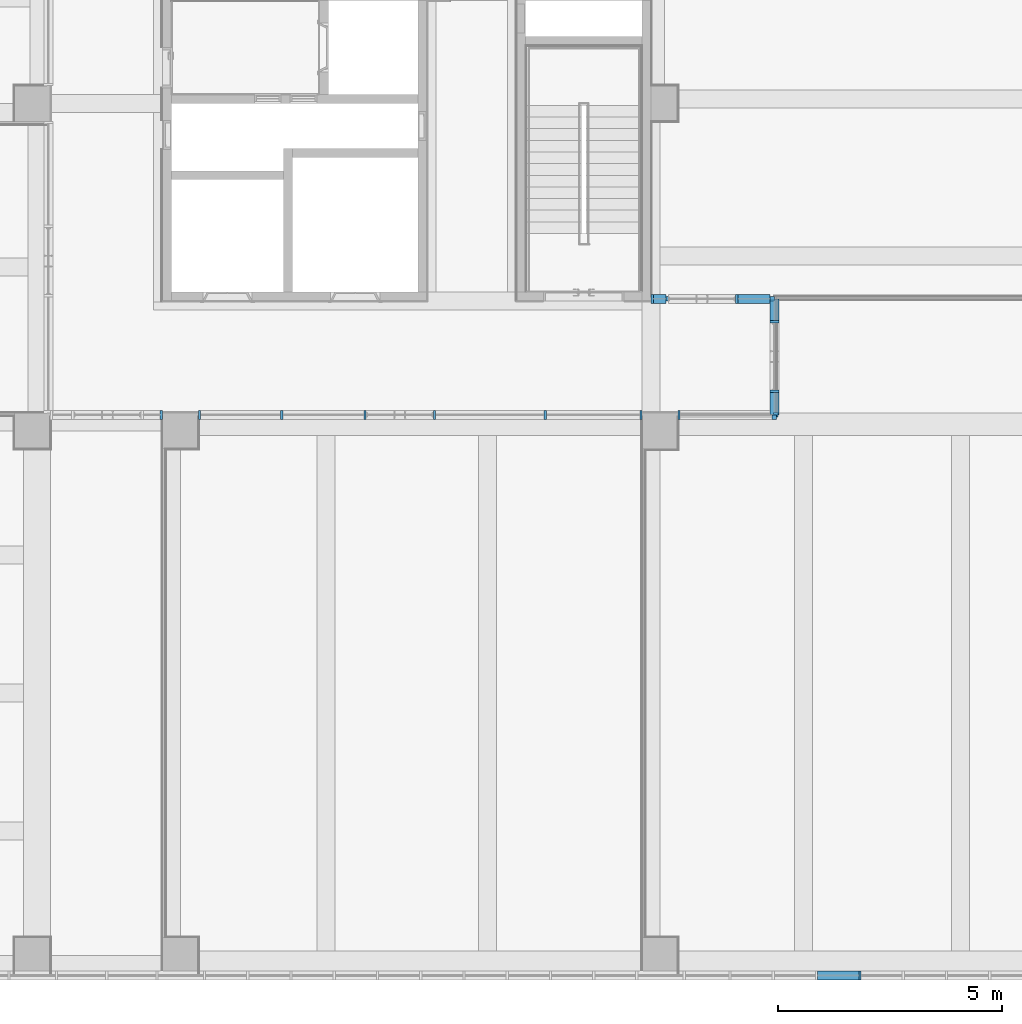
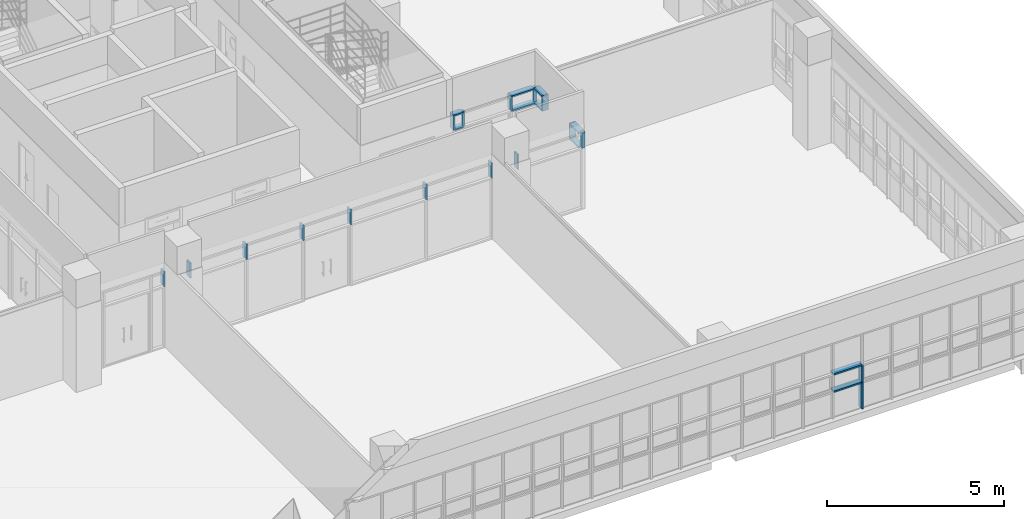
# One storey, part 15 of 81: 28 members, 6 elements without a shape of their own.
"""IFC2X3 building model written with IfcOpenShell, lengths in millimetres."""

from ifc_helpers import new_model, entity, si_unit, converted_unit, derived_unit, direction, frame, origin, origin_2d_with_axis, place, context, subcontext, project, spatial, rectangle, extrude, source, transform, mapped, material, type_object, type_shapes, element, aggregate, save


model = new_model("IFC2X3")

# Units and contexts
model_context = context("Model", 3, precision=0.01, world=origin(), true_north=direction((6.123031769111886e-17, 1.0)))
body_context = subcontext(model_context, "Body", "Model", "MODEL_VIEW")
ifc_project = project(units=[si_unit("LENGTHUNIT", "METRE", prefix="MILLI"), si_unit("AREAUNIT", "SQUARE_METRE"), si_unit("VOLUMEUNIT", "CUBIC_METRE"), converted_unit("PLANEANGLEUNIT", "DEGREE", entity("IfcRatioMeasure", 0.017453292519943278), si_unit("PLANEANGLEUNIT", "RADIAN"), dimensions=[0, 0, 0, 0, 0, 0, 0]), si_unit("MASSUNIT", "GRAM", prefix="KILO"), derived_unit("MASSDENSITYUNIT", [(si_unit("MASSUNIT", "GRAM", prefix="KILO"), 1), (si_unit("LENGTHUNIT", "METRE"), -3)]), derived_unit("MOMENTOFINERTIAUNIT", [(si_unit("LENGTHUNIT", "METRE"), 4)]), si_unit("TIMEUNIT", "SECOND"), si_unit("FREQUENCYUNIT", "HERTZ"), si_unit("THERMODYNAMICTEMPERATUREUNIT", "DEGREE_CELSIUS"), derived_unit("THERMALTRANSMITTANCEUNIT", [(si_unit("MASSUNIT", "GRAM", prefix="KILO"), 1), (si_unit("THERMODYNAMICTEMPERATUREUNIT", "KELVIN"), -1), (si_unit("TIMEUNIT", "SECOND"), -3)]), derived_unit("VOLUMETRICFLOWRATEUNIT", [(si_unit("LENGTHUNIT", "METRE"), 3), (si_unit("TIMEUNIT", "SECOND"), -1)]), derived_unit("MASSFLOWRATEUNIT", [(si_unit("MASSUNIT", "GRAM", prefix="KILO"), 1), (si_unit("TIMEUNIT", "SECOND"), -1)]), derived_unit("ROTATIONALFREQUENCYUNIT", [(si_unit("TIMEUNIT", "SECOND"), -1)]), si_unit("ELECTRICCURRENTUNIT", "AMPERE"), si_unit("ELECTRICVOLTAGEUNIT", "VOLT"), si_unit("POWERUNIT", "WATT"), si_unit("FORCEUNIT", "NEWTON", prefix="KILO"), si_unit("ILLUMINANCEUNIT", "LUX"), si_unit("LUMINOUSFLUXUNIT", "LUMEN"), si_unit("LUMINOUSINTENSITYUNIT", "CANDELA"), derived_unit("USERDEFINED", [(si_unit("MASSUNIT", "GRAM", prefix="KILO"), -1), (si_unit("LENGTHUNIT", "METRE"), -2), (si_unit("TIMEUNIT", "SECOND"), 3), (si_unit("LUMINOUSFLUXUNIT", "LUMEN"), 1)]), derived_unit("SOUNDPOWERUNIT", [(si_unit("MASSUNIT", "GRAM", prefix="KILO"), 1), (si_unit("LENGTHUNIT", "METRE"), 2), (si_unit("TIMEUNIT", "SECOND"), -3)]), derived_unit("SOUNDPRESSUREUNIT", [(si_unit("MASSUNIT", "GRAM", prefix="KILO"), 1), (si_unit("LENGTHUNIT", "METRE"), -1), (si_unit("TIMEUNIT", "SECOND"), -2)]), derived_unit("LINEARVELOCITYUNIT", [(si_unit("LENGTHUNIT", "METRE"), 1), (si_unit("TIMEUNIT", "SECOND"), -1)]), si_unit("PRESSUREUNIT", "PASCAL"), derived_unit("USERDEFINED", [(si_unit("LENGTHUNIT", "METRE"), -2), (si_unit("MASSUNIT", "GRAM", prefix="KILO"), 1), (si_unit("TIMEUNIT", "SECOND"), -2)]), derived_unit("LINEARFORCEUNIT", [(si_unit("MASSUNIT", "GRAM", prefix="KILO"), 1), (si_unit("LENGTHUNIT", "METRE"), 1), (si_unit("TIMEUNIT", "SECOND"), -2), (si_unit("LENGTHUNIT", "METRE"), -1)]), derived_unit("PLANARFORCEUNIT", [(si_unit("MASSUNIT", "GRAM", prefix="KILO"), 1), (si_unit("LENGTHUNIT", "METRE"), 1), (si_unit("TIMEUNIT", "SECOND"), -2), (si_unit("LENGTHUNIT", "METRE"), -2)])], contexts=[model_context])

# Site, building, storey
site_placement = place(None, frame((-14167.972527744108, -657.2125860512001, 0.0)))
site = spatial("IfcSite", under=ifc_project, at=site_placement, Name="Default", CompositionType="ELEMENT")
building_placement = place(site_placement, origin())
building = spatial("IfcBuilding", under=site, at=building_placement, Name="Sample Building", CompositionType="ELEMENT")
storey_placement = place(building_placement, frame((0.0, 0.0, 13400.0)))
storey = spatial("IfcBuildingStorey", under=building, at=storey_placement, Name="지상 4층", CompositionType="ELEMENT", Elevation=13400.00000000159)

# Curtain wall, member
curtain_wall_type = type_object("IfcCurtainWallType", Name="커튼월:CW112-스테인리스 스틸 커튼월", PredefinedType="NOTDEFINED")
curtain_wall_1_placement = place(storey_placement, frame((0.0, 0.0, -13400.0)))
curtain_wall_1 = element("IfcCurtainWall", 1, at=curtain_wall_1_placement, inside=storey, type_object=curtain_wall_type, Name="커튼월:CW112-스테인리스 스틸 커튼월", ObjectType="커튼월:CW112-스테인리스 스틸 커튼월")
ifc_material = material(Name="<Unnamed>")
member_type_1 = type_object("IfcMemberType", Name="직사각형 멀리언:CW200-직사각형 멀리언 50x200mm", PredefinedType="MULLION", material=ifc_material)
shared_shape_1 = source(origin(), body_context, "Body", "SweptSolid", [
    extrude(rectangle(XDim=200.0, YDim=50.0, at=origin_2d_with_axis()), frame((0.0, 0.0, -600.0), z_axis=(0.0, 0.0, 1.0), x_axis=(0.0, -1.0, 0.0)), (0.0, 0.0, 1.0), 600.0),
])
type_shapes(member_type_1, [shared_shape_1])
member_1_placement = place(curtain_wall_1_placement, frame((45625.156070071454, 507.21229514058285, 14400.0), z_axis=(0.0, 0.0, -1.0), x_axis=(1.0, 0.0, 0.0)))
member_1 = element("IfcMember", 2, at=member_1_placement, type_object=member_type_1, material=ifc_material, Name="직사각형 멀리언:CW200-직사각형 멀리언 50x200mm", ObjectType="직사각형 멀리언:CW200-직사각형 멀리언 50x200mm", context=body_context, shape_type="MappedRepresentation", body=[
    mapped(shared_shape_1, transform((0.0, 0.0, 0.0), scale=1.0)),
])

curtain_wall_2_placement = place(storey_placement, frame((0.0, 0.0, -13400.0)))
curtain_wall_2 = element("IfcCurtainWall", 3, at=curtain_wall_2_placement, inside=storey, type_object=curtain_wall_type, Name="커튼월:CW112-스테인리스 스틸 커튼월", ObjectType="커튼월:CW112-스테인리스 스틸 커튼월")
member_type_2 = type_object("IfcMemberType", Name="직사각형 멀리언:CW200-직사각형 멀리언 50x200mm", PredefinedType="MULLION", material=ifc_material)
shared_shape_2 = source(origin(), body_context, "Body", "SweptSolid", [
    extrude(rectangle(XDim=200.0, YDim=50.0, at=origin_2d_with_axis()), frame((-25.0, 0.0, -520.0), z_axis=(0.0, 0.0, 1.0), x_axis=(0.0, -1.0, 0.0)), (0.0, 0.0, 1.0), 520.0000000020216),
])
type_shapes(member_type_2, [shared_shape_2])
member_2_placement = place(curtain_wall_2_placement, frame((30867.97249113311, 13012.21261703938, 16100.0), z_axis=(0.0, 0.0, 1.0), x_axis=(-1.0, 0.0, 0.0)))
member_2 = element("IfcMember", 4, at=member_2_placement, type_object=member_type_2, material=ifc_material, Name="직사각형 멀리언:CW200-직사각형 멀리언 50x200mm", ObjectType="직사각형 멀리언:CW200-직사각형 멀리언 50x200mm", context=body_context, shape_type="MappedRepresentation", body=[
    mapped(shared_shape_2, transform((0.0, 0.0, 0.0), scale=1.0)),
])

curtain_wall_3_placement = place(storey_placement, frame((0.0, 0.0, -13400.0)))
curtain_wall_3 = element("IfcCurtainWall", 5, at=curtain_wall_3_placement, inside=storey, type_object=curtain_wall_type, Name="커튼월:CW112-스테인리스 스틸 커튼월", ObjectType="커튼월:CW112-스테인리스 스틸 커튼월")
member_3_placement = place(curtain_wall_3_placement, frame((41567.97249113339, 13012.212383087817, 16100.0), z_axis=(0.0, 0.0, 1.0), x_axis=(-1.0, 0.0, 0.0)))
member_3 = element("IfcMember", 6, at=member_3_placement, type_object=member_type_2, material=ifc_material, Name="직사각형 멀리언:CW200-직사각형 멀리언 50x200mm", ObjectType="직사각형 멀리언:CW200-직사각형 멀리언 50x200mm", context=body_context, shape_type="MappedRepresentation", body=[
    mapped(shared_shape_2, transform((0.0, 0.0, 0.0), scale=1.0)),
])

# Member
member_type_3 = type_object("IfcMemberType", Name="직사각형 멀리언:CW200-직사각형 멀리언 50x200mm", PredefinedType="MULLION", material=ifc_material)
shared_shape_3 = source(origin(), body_context, "Body", "SweptSolid", [
    extrude(rectangle(XDim=200.0, YDim=50.0, at=origin_2d_with_axis()), frame((-25.0, 0.0, -520.0), z_axis=(0.0, 0.0, 1.0), x_axis=(0.0, -1.0, 0.0)), (0.0, 0.0, 1.0), 520.0000000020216),
])
type_shapes(member_type_3, [shared_shape_3])
member_4_placement = place(curtain_wall_2_placement, frame((40767.9724911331, 13012.21261703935, 15580.0), z_axis=(0.0, 0.0, -1.0), x_axis=(1.0, 0.0, 0.0)))
member_4 = element("IfcMember", 7, at=member_4_placement, type_object=member_type_3, material=ifc_material, Name="직사각형 멀리언:CW200-직사각형 멀리언 50x200mm", ObjectType="직사각형 멀리언:CW200-직사각형 멀리언 50x200mm", context=body_context, shape_type="MappedRepresentation", body=[
    mapped(shared_shape_3, transform((0.0, 0.0, 0.0), scale=1.0)),
])

# Curtain wall, member
curtain_wall_4_placement = place(storey_placement, frame((0.0, 0.0, -13400.0)))
curtain_wall_4 = element("IfcCurtainWall", 8, at=curtain_wall_4_placement, inside=storey, type_object=curtain_wall_type, Name="커튼월:CW112-스테인리스 스틸 커튼월", ObjectType="커튼월:CW112-스테인리스 스틸 커튼월")
member_5_placement = place(curtain_wall_4_placement, frame((40967.963798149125, 15602.212586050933, 15580.0), z_axis=(0.0, 0.0, -1.0), x_axis=(-1.0, 0.0, 0.0)))
member_5 = element("IfcMember", 9, at=member_5_placement, type_object=member_type_3, material=ifc_material, Name="직사각형 멀리언:CW200-직사각형 멀리언 50x200mm", ObjectType="직사각형 멀리언:CW200-직사각형 멀리언 50x200mm", context=body_context, shape_type="MappedRepresentation", body=[
    mapped(shared_shape_3, transform((0.0, 0.0, 0.0), scale=1.0)),
])

# Member
member_type_4 = type_object("IfcMemberType", Name="직사각형 멀리언:CW200-직사각형 멀리언 50x200mm", PredefinedType="MULLION", material=ifc_material)
shared_shape_4 = source(origin(), body_context, "Body", "SweptSolid", [
    extrude(rectangle(XDim=200.0, YDim=50.0, at=origin_2d_with_axis()), frame((0.0, 0.0, -520.0), z_axis=(0.0, 0.0, 1.0), x_axis=(0.0, -1.0, 0.0)), (0.0, 0.0, 1.0), 520.0000000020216),
])
type_shapes(member_type_4, [shared_shape_4])
member_6_placement = place(curtain_wall_2_placement, frame((32727.97249113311, 13012.212617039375, 15580.0), z_axis=(0.0, 0.0, -1.0), x_axis=(1.0, 0.0, 0.0)))
member_6 = element("IfcMember", 10, at=member_6_placement, type_object=member_type_4, material=ifc_material, Name="직사각형 멀리언:CW200-직사각형 멀리언 50x200mm", ObjectType="직사각형 멀리언:CW200-직사각형 멀리언 50x200mm", context=body_context, shape_type="MappedRepresentation", body=[
    mapped(shared_shape_4, transform((0.0, 0.0, 0.0), scale=1.0)),
])

member_7_placement = place(curtain_wall_2_placement, frame((34587.972491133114, 13012.21261703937, 15580.0), z_axis=(0.0, 0.0, -1.0), x_axis=(1.0, 0.0, 0.0)))
member_7 = element("IfcMember", 11, at=member_7_placement, type_object=member_type_4, material=ifc_material, Name="직사각형 멀리언:CW200-직사각형 멀리언 50x200mm", ObjectType="직사각형 멀리언:CW200-직사각형 멀리언 50x200mm", context=body_context, shape_type="MappedRepresentation", body=[
    mapped(shared_shape_4, transform((0.0, 0.0, 0.0), scale=1.0)),
])

member_8_placement = place(curtain_wall_2_placement, frame((36137.97249113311, 13012.212617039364, 15580.0), z_axis=(0.0, 0.0, -1.0), x_axis=(1.0, 0.0, 0.0)))
member_8 = element("IfcMember", 12, at=member_8_placement, type_object=member_type_4, material=ifc_material, Name="직사각형 멀리언:CW200-직사각형 멀리언 50x200mm", ObjectType="직사각형 멀리언:CW200-직사각형 멀리언 50x200mm", context=body_context, shape_type="MappedRepresentation", body=[
    mapped(shared_shape_4, transform((0.0, 0.0, 0.0), scale=1.0)),
])

member_9_placement = place(curtain_wall_2_placement, frame((38607.972491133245, 13012.212617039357, 15580.0), z_axis=(0.0, 0.0, -1.0), x_axis=(1.0, 0.0, 0.0)))
member_9 = element("IfcMember", 13, at=member_9_placement, type_object=member_type_4, material=ifc_material, Name="직사각형 멀리언:CW200-직사각형 멀리언 50x200mm", ObjectType="직사각형 멀리언:CW200-직사각형 멀리언 50x200mm", context=body_context, shape_type="MappedRepresentation", body=[
    mapped(shared_shape_4, transform((0.0, 0.0, 0.0), scale=1.0)),
])

aggregate(curtain_wall_2, [member_2, member_4, member_6, member_7, member_8, member_9])

# Curtain wall, members
curtain_wall_5_placement = place(storey_placement, frame((0.0, 0.0, -13400.0)))
curtain_wall_5 = element("IfcCurtainWall", 14, at=curtain_wall_5_placement, inside=storey, type_object=curtain_wall_type, Name="커튼월:CW112-스테인리스 스틸 커튼월", ObjectType="커튼월:CW112-스테인리스 스틸 커튼월")
member_10_placement = place(curtain_wall_5_placement, frame((43717.972491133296, 13537.177678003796, 15580.0), z_axis=(0.0, 0.0, -1.0), x_axis=(0.0, 1.0, 0.0)))
member_10 = element("IfcMember", 15, at=member_10_placement, type_object=member_type_4, material=ifc_material, Name="직사각형 멀리언:CW200-직사각형 멀리언 50x200mm", ObjectType="직사각형 멀리언:CW200-직사각형 멀리언 50x200mm", context=body_context, shape_type="MappedRepresentation", body=[
    mapped(shared_shape_4, transform((0.0, 0.0, 0.0), scale=1.0)),
])
member_11_placement = place(curtain_wall_5_placement, frame((43717.972491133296, 15087.177678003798, 15580.0), z_axis=(0.0, 0.0, -1.0), x_axis=(0.0, 1.0, 0.0)))
member_11 = element("IfcMember", 16, at=member_11_placement, type_object=member_type_4, material=ifc_material, Name="직사각형 멀리언:CW200-직사각형 멀리언 50x200mm", ObjectType="직사각형 멀리언:CW200-직사각형 멀리언 50x200mm", context=body_context, shape_type="MappedRepresentation", body=[
    mapped(shared_shape_4, transform((0.0, 0.0, 0.0), scale=1.0)),
])

# Member
member_12_placement = place(curtain_wall_4_placement, frame((42877.972491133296, 15602.212586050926, 15580.0), z_axis=(0.0, 0.0, -1.0), x_axis=(-1.0, 0.0, 0.0)))
member_12 = element("IfcMember", 17, at=member_12_placement, type_object=member_type_4, material=ifc_material, Name="직사각형 멀리언:CW200-직사각형 멀리언 50x200mm", ObjectType="직사각형 멀리언:CW200-직사각형 멀리언 50x200mm", context=body_context, shape_type="MappedRepresentation", body=[
    mapped(shared_shape_4, transform((0.0, 0.0, 0.0), scale=1.0)),
])

# Curtain wall, member
curtain_wall_6_placement = place(storey_placement, frame((0.0, 0.0, -13400.0)))
curtain_wall_6 = element("IfcCurtainWall", 18, at=curtain_wall_6_placement, inside=storey, type_object=curtain_wall_type, Name="커튼월:CW112-스테인리스 스틸 커튼월", ObjectType="커튼월:CW112-스테인리스 스틸 커튼월")
member_type_5 = type_object("IfcMemberType", Name="직사각형 멀리언:CW200-직사각형 멀리언 50x200mm", PredefinedType="MULLION", material=ifc_material)
shared_shape_5 = source(origin(), body_context, "Body", "SweptSolid", [
    extrude(rectangle(XDim=200.0, YDim=50.0, at=origin_2d_with_axis()), frame((-25.0, 0.0, -520.0), z_axis=(0.0, 0.0, 1.0), x_axis=(0.0, -1.0, 0.0)), (0.0, 0.0, 1.0), 520.0000000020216),
])
type_shapes(member_type_5, [shared_shape_5])
member_13_placement = place(curtain_wall_6_placement, frame((30067.95511434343, 13012.212307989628, 16100.0)))
member_13 = element("IfcMember", 19, at=member_13_placement, type_object=member_type_5, material=ifc_material, Name="직사각형 멀리언:CW200-직사각형 멀리언 50x200mm", ObjectType="직사각형 멀리언:CW200-직사각형 멀리언 50x200mm", context=body_context, shape_type="MappedRepresentation", body=[
    mapped(shared_shape_5, transform((0.0, 0.0, 0.0), scale=1.0)),
])
aggregate(curtain_wall_6, [member_13])

# Member
member_type_6 = type_object("IfcMemberType", Name="직사각형 멀리언:CW200-직사각형 멀리언 50x200mm", PredefinedType="MULLION", material=ifc_material)
shared_shape_6 = source(origin(), body_context, "Body", "SweptSolid", [
    extrude(rectangle(XDim=200.0, YDim=50.0, at=origin_2d_with_axis()), frame((0.0, 0.0, -915.0), z_axis=(0.0, 0.0, 1.0), x_axis=(0.0, -1.0, 0.0)), (0.0, 0.0, 1.0), 915.000000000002),
])
type_shapes(member_type_6, [shared_shape_6])
member_14_placement = place(curtain_wall_1_placement, frame((45600.15607007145, 507.2122951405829, 14400.0), z_axis=(1.0, 0.0, 0.0), x_axis=(0.0, 0.0, 1.0)))
member_14 = element("IfcMember", 20, at=member_14_placement, type_object=member_type_6, material=ifc_material, Name="직사각형 멀리언:CW200-직사각형 멀리언 50x200mm", ObjectType="직사각형 멀리언:CW200-직사각형 멀리언 50x200mm", context=body_context, shape_type="MappedRepresentation", body=[
    mapped(shared_shape_6, transform((0.0, 0.0, 0.0), scale=1.0)),
])

member_15_placement = place(curtain_wall_1_placement, frame((45600.15607007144, 507.2122951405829, 15000.0), z_axis=(1.0, 0.0, 0.0), x_axis=(0.0, 0.0, 1.0)))
member_15 = element("IfcMember", 21, at=member_15_placement, type_object=member_type_6, material=ifc_material, Name="직사각형 멀리언:CW200-직사각형 멀리언 50x200mm", ObjectType="직사각형 멀리언:CW200-직사각형 멀리언 50x200mm", context=body_context, shape_type="MappedRepresentation", body=[
    mapped(shared_shape_6, transform((0.0, 0.0, 0.0), scale=1.0)),
])

member_type_7 = type_object("IfcMemberType", Name="직사각형 멀리언:CW200-직사각형 멀리언 50x200mm", PredefinedType="MULLION", material=ifc_material)
shared_shape_7 = source(origin(), body_context, "Body", "SweptSolid", [
    extrude(rectangle(XDim=200.0, YDim=50.0, at=origin_2d_with_axis()), frame((0.0, 0.0, -920.0), z_axis=(0.0, 0.0, 1.0), x_axis=(0.0, -1.0, 0.0)), (0.0, 0.0, 1.0), 919.9999999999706),
])
type_shapes(member_type_7, [shared_shape_7])
member_16_placement = place(curtain_wall_1_placement, frame((45625.156070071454, 507.21229514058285, 13480.0), z_axis=(0.0, 0.0, -1.0), x_axis=(1.0, 0.0, 0.0)))
member_16 = element("IfcMember", 22, at=member_16_placement, type_object=member_type_7, material=ifc_material, Name="직사각형 멀리언:CW200-직사각형 멀리언 50x200mm", ObjectType="직사각형 멀리언:CW200-직사각형 멀리언 50x200mm", context=body_context, shape_type="MappedRepresentation", body=[
    mapped(shared_shape_7, transform((0.0, 0.0, 0.0), scale=1.0)),
])

aggregate(curtain_wall_1, [member_14, member_15, member_16, member_1])

member_type_8 = type_object("IfcMemberType", Name="직사각형 멀리언:CW200-직사각형 멀리언 100 x 100mm", PredefinedType="MULLION", material=ifc_material)
shared_shape_8 = source(origin(), body_context, "Body", "SweptSolid", [
    extrude(rectangle(XDim=100.00000000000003, YDim=100.0, at=origin_2d_with_axis()), frame((-50.0, 0.0, -520.0), z_axis=(0.0, 0.0, 1.0), x_axis=(0.0, -1.0, 0.0)), (0.0, 0.0, 1.0), 519.9999999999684),
])
type_shapes(member_type_8, [shared_shape_8])
member_17_placement = place(curtain_wall_3_placement, frame((43802.97249113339, 13012.21238308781, 15580.0), z_axis=(0.0, 0.0, -1.0), x_axis=(1.0, 0.0, 0.0)))
member_17 = element("IfcMember", 23, at=member_17_placement, type_object=member_type_8, material=ifc_material, Name="직사각형 멀리언:CW200-직사각형 멀리언 100 x 100mm", ObjectType="직사각형 멀리언:CW200-직사각형 멀리언 100 x 100mm", context=body_context, shape_type="MappedRepresentation", body=[
    mapped(shared_shape_8, transform((0.0, 0.0, 0.0), scale=1.0)),
])

aggregate(curtain_wall_3, [member_3, member_17])

member_type_9 = type_object("IfcMemberType", Name="직사각형 멀리언:CW200-직사각형 멀리언 50x200mm", PredefinedType="MULLION", material=ifc_material)
shared_shape_9 = source(origin(), body_context, "Body", "SweptSolid", [
    extrude(rectangle(XDim=200.0, YDim=50.0, at=origin_2d_with_axis()), frame((-25.0, 0.0, -490.03490804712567), z_axis=(0.0, 0.0, 1.0), x_axis=(0.0, -1.0, 0.0)), (0.0, 0.0, 1.0), 490.03490804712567),
])
type_shapes(member_type_9, [shared_shape_9])
member_18_placement = place(curtain_wall_5_placement, frame((43717.972491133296, 15602.212586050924, 16100.0), z_axis=(0.0, 1.0, 0.0), x_axis=(0.0, 0.0, 1.0)))
member_18 = element("IfcMember", 24, at=member_18_placement, type_object=member_type_9, material=ifc_material, Name="직사각형 멀리언:CW200-직사각형 멀리언 50x200mm", ObjectType="직사각형 멀리언:CW200-직사각형 멀리언 50x200mm", context=body_context, shape_type="MappedRepresentation", body=[
    mapped(shared_shape_9, transform((0.0, 0.0, 0.0), scale=1.0)),
])

member_type_10 = type_object("IfcMemberType", Name="직사각형 멀리언:CW200-직사각형 멀리언 100 x 100mm", PredefinedType="MULLION", material=ifc_material)
shared_shape_10 = source(origin(), body_context, "Body", "SweptSolid", [
    extrude(rectangle(XDim=100.00000000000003, YDim=100.0, at=origin_2d_with_axis()), frame((-50.0, 0.0, -520.0), z_axis=(0.0, 0.0, 1.0), x_axis=(0.0, -1.0, 0.0)), (0.0, 0.0, 1.0), 520.000000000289),
])
type_shapes(member_type_10, [shared_shape_10])
member_19_placement = place(curtain_wall_5_placement, frame((43717.972491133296, 12912.177678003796, 16100.0), z_axis=(0.0, 0.0, 1.0), x_axis=(0.0, -1.0, 0.0)))
member_19 = element("IfcMember", 25, at=member_19_placement, type_object=member_type_10, material=ifc_material, Name="직사각형 멀리언:CW200-직사각형 멀리언 100 x 100mm", ObjectType="직사각형 멀리언:CW200-직사각형 멀리언 100 x 100mm", context=body_context, shape_type="MappedRepresentation", body=[
    mapped(shared_shape_10, transform((0.0, 0.0, 0.0), scale=1.0)),
])

member_20_placement = place(curtain_wall_4_placement, frame((43717.972491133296, 15602.212586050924, 16100.0)))
member_20 = element("IfcMember", 26, at=member_20_placement, type_object=member_type_10, material=ifc_material, Name="직사각형 멀리언:CW200-직사각형 멀리언 100 x 100mm", ObjectType="직사각형 멀리언:CW200-직사각형 멀리언 100 x 100mm", context=body_context, shape_type="MappedRepresentation", body=[
    mapped(shared_shape_10, transform((0.0, 0.0, 0.0), scale=1.0)),
])

member_type_11 = type_object("IfcMemberType", Name="직사각형 멀리언:CW200-직사각형 멀리언 50x200mm", PredefinedType="MULLION", material=ifc_material)
shared_shape_11 = source(origin(), body_context, "Body", "SweptSolid", [
    extrude(rectangle(XDim=200.0, YDim=50.0, at=origin_2d_with_axis()), frame((-25.0, 0.0, -500.0), z_axis=(0.0, 0.0, 1.0), x_axis=(0.0, -1.0, 0.0)), (0.0, 0.0, 1.0), 499.999999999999),
])
type_shapes(member_type_11, [shared_shape_11])
member_21_placement = place(curtain_wall_5_placement, frame((43717.972491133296, 13512.177678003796, 16100.0), z_axis=(0.0, 1.0, 0.0), x_axis=(0.0, 0.0, 1.0)))
member_21 = element("IfcMember", 27, at=member_21_placement, type_object=member_type_11, material=ifc_material, Name="직사각형 멀리언:CW200-직사각형 멀리언 50x200mm", ObjectType="직사각형 멀리언:CW200-직사각형 멀리언 50x200mm", context=body_context, shape_type="MappedRepresentation", body=[
    mapped(shared_shape_11, transform((0.0, 0.0, 0.0), scale=1.0)),
])

member_type_12 = type_object("IfcMemberType", Name="직사각형 멀리언:CW200-직사각형 멀리언 50x200mm", PredefinedType="MULLION", material=ifc_material)
shared_shape_12 = source(origin(), body_context, "Body", "SweptSolid", [
    extrude(rectangle(XDim=200.0, YDim=50.0, at=origin_2d_with_axis()), frame((0.0, 0.0, -500.0), z_axis=(0.0, 0.0, 1.0), x_axis=(0.0, -1.0, 0.0)), (0.0, 0.0, 1.0), 499.999999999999),
])
type_shapes(member_type_12, [shared_shape_12])
member_22_placement = place(curtain_wall_5_placement, frame((43717.972491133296, 13512.177678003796, 15580.0), z_axis=(0.0, 1.0, 0.0), x_axis=(0.0, 0.0, 1.0)))
member_22 = element("IfcMember", 28, at=member_22_placement, type_object=member_type_12, material=ifc_material, Name="직사각형 멀리언:CW200-직사각형 멀리언 50x200mm", ObjectType="직사각형 멀리언:CW200-직사각형 멀리언 50x200mm", context=body_context, shape_type="MappedRepresentation", body=[
    mapped(shared_shape_12, transform((0.0, 0.0, 0.0), scale=1.0)),
])

member_type_13 = type_object("IfcMemberType", Name="직사각형 멀리언:CW200-직사각형 멀리언 50x200mm", PredefinedType="MULLION", material=ifc_material)
shared_shape_13 = source(origin(), body_context, "Body", "SweptSolid", [
    extrude(rectangle(XDim=200.0, YDim=50.0, at=origin_2d_with_axis()), frame((0.0, 0.0, -490.03490804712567), z_axis=(0.0, 0.0, 1.0), x_axis=(0.0, -1.0, 0.0)), (0.0, 0.0, 1.0), 490.03490804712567),
])
type_shapes(member_type_13, [shared_shape_13])
member_23_placement = place(curtain_wall_5_placement, frame((43717.972491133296, 15602.212586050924, 15580.0), z_axis=(0.0, 1.0, 0.0), x_axis=(0.0, 0.0, 1.0)))
member_23 = element("IfcMember", 29, at=member_23_placement, type_object=member_type_13, material=ifc_material, Name="직사각형 멀리언:CW200-직사각형 멀리언 50x200mm", ObjectType="직사각형 멀리언:CW200-직사각형 멀리언 50x200mm", context=body_context, shape_type="MappedRepresentation", body=[
    mapped(shared_shape_13, transform((0.0, 0.0, 0.0), scale=1.0)),
])

aggregate(curtain_wall_5, [member_18, member_19, member_21, member_22, member_10, member_23, member_11])

member_type_14 = type_object("IfcMemberType", Name="직사각형 멀리언:CW200-직사각형 멀리언 50x200mm", PredefinedType="MULLION", material=ifc_material)
shared_shape_14 = source(origin(), body_context, "Body", "SweptSolid", [
    extrude(rectangle(XDim=200.0, YDim=50.0, at=origin_2d_with_axis()), frame((-25.0, 0.0, -280.0086929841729), z_axis=(0.0, 0.0, 1.0), x_axis=(0.0, -1.0, 0.0)), (0.0, 0.0, 1.0), 280.0086929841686),
])
type_shapes(member_type_14, [shared_shape_14])
member_24_placement = place(curtain_wall_4_placement, frame((41017.963798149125, 15602.212586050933, 16100.0), z_axis=(-1.0, 0.0, 0.0), x_axis=(0.0, 0.0, 1.0)))
member_24 = element("IfcMember", 30, at=member_24_placement, type_object=member_type_14, material=ifc_material, Name="직사각형 멀리언:CW200-직사각형 멀리언 50x200mm", ObjectType="직사각형 멀리언:CW200-직사각형 멀리언 50x200mm", context=body_context, shape_type="MappedRepresentation", body=[
    mapped(shared_shape_14, transform((0.0, 0.0, 0.0), scale=1.0)),
])

member_type_15 = type_object("IfcMemberType", Name="직사각형 멀리언:CW200-직사각형 멀리언 50x200mm", PredefinedType="MULLION", material=ifc_material)
shared_shape_15 = source(origin(), body_context, "Body", "SweptSolid", [
    extrude(rectangle(XDim=200.0, YDim=50.0, at=origin_2d_with_axis()), frame((0.0, 0.0, -715.0), z_axis=(0.0, 0.0, 1.0), x_axis=(0.0, -1.0, 0.0)), (0.0, 0.0, 1.0), 714.9999999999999),
])
type_shapes(member_type_15, [shared_shape_15])
member_25_placement = place(curtain_wall_4_placement, frame((42902.9724911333, 15602.212586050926, 15580.0), z_axis=(-1.0, 0.0, 0.0), x_axis=(0.0, 0.0, 1.0)))
member_25 = element("IfcMember", 31, at=member_25_placement, type_object=member_type_15, material=ifc_material, Name="직사각형 멀리언:CW200-직사각형 멀리언 50x200mm", ObjectType="직사각형 멀리언:CW200-직사각형 멀리언 50x200mm", context=body_context, shape_type="MappedRepresentation", body=[
    mapped(shared_shape_15, transform((0.0, 0.0, 0.0), scale=1.0)),
])

member_type_16 = type_object("IfcMemberType", Name="직사각형 멀리언:CW200-직사각형 멀리언 50x200mm", PredefinedType="MULLION", material=ifc_material)
shared_shape_16 = source(origin(), body_context, "Body", "SweptSolid", [
    extrude(rectangle(XDim=200.0, YDim=50.0, at=origin_2d_with_axis()), frame((-25.0, 0.0, -715.0), z_axis=(0.0, 0.0, 1.0), x_axis=(0.0, -1.0, 0.0)), (0.0, 0.0, 1.0), 714.9999999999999),
])
type_shapes(member_type_16, [shared_shape_16])
member_26_placement = place(curtain_wall_4_placement, frame((42902.9724911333, 15602.212586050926, 16100.0), z_axis=(-1.0, 0.0, 0.0), x_axis=(0.0, 0.0, 1.0)))
member_26 = element("IfcMember", 32, at=member_26_placement, type_object=member_type_16, material=ifc_material, Name="직사각형 멀리언:CW200-직사각형 멀리언 50x200mm", ObjectType="직사각형 멀리언:CW200-직사각형 멀리언 50x200mm", context=body_context, shape_type="MappedRepresentation", body=[
    mapped(shared_shape_16, transform((0.0, 0.0, 0.0), scale=1.0)),
])

member_type_17 = type_object("IfcMemberType", Name="직사각형 멀리언:CW200-직사각형 멀리언 50x200mm", PredefinedType="MULLION", material=ifc_material)
shared_shape_17 = source(origin(), body_context, "Body", "SweptSolid", [
    extrude(rectangle(XDim=200.0, YDim=50.0, at=origin_2d_with_axis()), frame((0.0, 0.0, -280.0086929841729), z_axis=(0.0, 0.0, 1.0), x_axis=(0.0, -1.0, 0.0)), (0.0, 0.0, 1.0), 280.0086929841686),
])
type_shapes(member_type_17, [shared_shape_17])
member_27_placement = place(curtain_wall_4_placement, frame((41017.963798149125, 15602.212586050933, 15580.0), z_axis=(-1.0, 0.0, 0.0), x_axis=(0.0, 0.0, 1.0)))
member_27 = element("IfcMember", 33, at=member_27_placement, type_object=member_type_17, material=ifc_material, Name="직사각형 멀리언:CW200-직사각형 멀리언 50x200mm", ObjectType="직사각형 멀리언:CW200-직사각형 멀리언 50x200mm", context=body_context, shape_type="MappedRepresentation", body=[
    mapped(shared_shape_17, transform((0.0, 0.0, 0.0), scale=1.0)),
])

member_type_18 = type_object("IfcMemberType", Name="직사각형 멀리언:CW200-직사각형 멀리언 60 x 100mm", PredefinedType="MULLION", material=ifc_material)
shared_shape_18 = source(origin(), body_context, "Body", "SweptSolid", [
    extrude(rectangle(XDim=100.0, YDim=60.0, at=origin_2d_with_axis()), frame((0.0, 0.0, -520.0), z_axis=(0.0, 0.0, 1.0), x_axis=(0.0, -1.0, 0.0)), (0.0, 0.0, 1.0), 519.9999999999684),
])
type_shapes(member_type_18, [shared_shape_18])
member_28_placement = place(curtain_wall_4_placement, frame((41327.972491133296, 15602.21258605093, 15580.0), z_axis=(0.0, 0.0, -1.0), x_axis=(-1.0, 0.0, 0.0)))
member_28 = element("IfcMember", 34, at=member_28_placement, type_object=member_type_18, material=ifc_material, Name="직사각형 멀리언:CW200-직사각형 멀리언 60 x 100mm", ObjectType="직사각형 멀리언:CW200-직사각형 멀리언 60 x 100mm", context=body_context, shape_type="MappedRepresentation", body=[
    mapped(shared_shape_18, transform((0.0, 0.0, 0.0), scale=1.0)),
])

aggregate(curtain_wall_4, [member_24, member_20, member_5, member_25, member_26, member_12, member_27, member_28])

save(model, "model.ifc")
